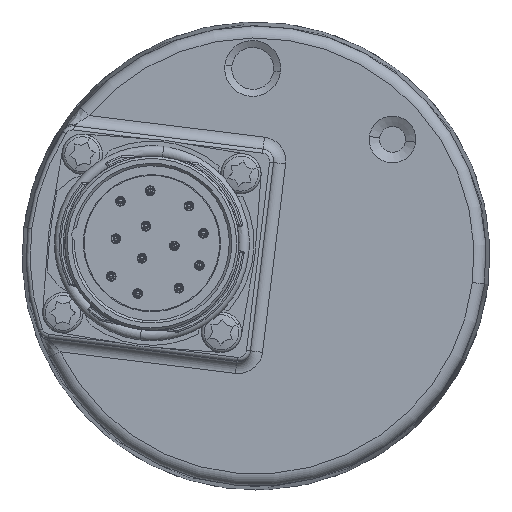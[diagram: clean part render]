
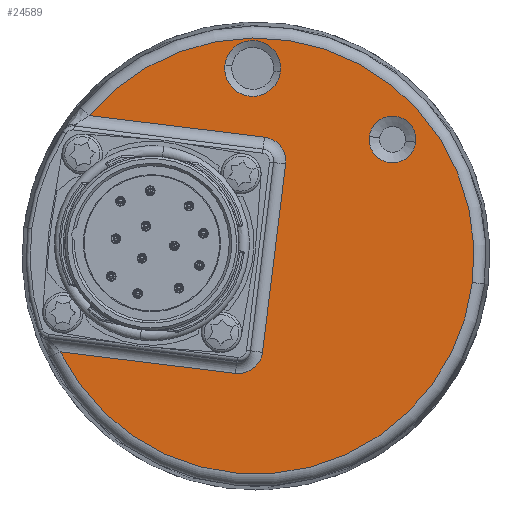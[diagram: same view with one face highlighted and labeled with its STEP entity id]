
A CAD part, left-side view. The second image highlights one B-rep face of the part: STEP entity #24589.
In plain terms, the highlighted planar face has unit normal (-1, 0, 0).
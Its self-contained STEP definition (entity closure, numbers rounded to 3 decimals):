
#851 = DIRECTION ( 'NONE',  ( 0., -0.993, -0.122 ) ) ;
#923 = DIRECTION ( 'NONE',  ( 0., -0.993, -0.122 ) ) ;
#1179 = EDGE_CURVE ( 'NONE', #2451, #25981, #10735, .T. ) ;
#2451 = VERTEX_POINT ( 'NONE', #3148 ) ;
#3148 = CARTESIAN_POINT ( 'NONE',  ( -30.5, -14.042, 14.804 ) ) ;
#3290 = CIRCLE ( 'NONE', #15464, 27.022 ) ;
#5150 = VERTEX_POINT ( 'NONE', #27697 ) ;
#6244 = CARTESIAN_POINT ( 'NONE',  ( -30.5, 26.845, -11.565 ) ) ;
#6354 = DIRECTION ( 'NONE',  ( 1., 0., 0. ) ) ;
#7213 = ORIENTED_EDGE ( 'NONE', *, *, #29733, .T. ) ;
#8135 = EDGE_CURVE ( 'NONE', #53606, #53112, #9676, .T. ) ;
#9676 = LINE ( 'NONE', #52230, #46902 ) ;
#10735 = CIRCLE ( 'NONE', #45188, 2.899 ) ;
#10926 = ORIENTED_EDGE ( 'NONE', *, *, #8135, .T. ) ;
#11238 = CARTESIAN_POINT ( 'NONE',  ( -30.5, -16.919, 14.45 ) ) ;
#11755 = VECTOR ( 'NONE', #36566, 1000. ) ;
#12287 = CARTESIAN_POINT ( 'NONE',  ( -30.5, -16.919, 14.45 ) ) ;
#12891 = CARTESIAN_POINT ( 'NONE',  ( -30.5, 0.406, 23.246 ) ) ;
#15464 = AXIS2_PLACEMENT_3D ( 'NONE', #58868, #29882, #923 ) ;
#16156 = DIRECTION ( 'NONE',  ( 0., -0.993, -0.122 ) ) ;
#16637 = CIRCLE ( 'NONE', #58526, 3. ) ;
#16744 = ORIENTED_EDGE ( 'NONE', *, *, #1179, .T. ) ;
#17237 = DIRECTION ( 'NONE',  ( 0., -0.993, -0.122 ) ) ;
#17399 = EDGE_LOOP ( 'NONE', ( #49225, #26257, #24606, #7213, #27989, #10926, #33706 ) ) ;
#17416 = CARTESIAN_POINT ( 'NONE',  ( -30.5, 0.406, 23.246 ) ) ;
#17429 = EDGE_CURVE ( 'NONE', #21355, #34889, #43104, .T. ) ;
#17830 = DIRECTION ( 'NONE',  ( 0., -0.993, -0.122 ) ) ;
#18695 = FACE_OUTER_BOUND ( 'NONE', #17399, .T. ) ;
#18824 = EDGE_CURVE ( 'NONE', #23876, #46426, #3290, .T. ) ;
#20620 = PLANE ( 'NONE',  #36624 ) ;
#20746 = CARTESIAN_POINT ( 'NONE',  ( -30.5, 3.846, 23.669 ) ) ;
#21355 = VERTEX_POINT ( 'NONE', #20746 ) ;
#21597 = EDGE_CURVE ( 'NONE', #5150, #53112, #36784, .T. ) ;
#21961 = CARTESIAN_POINT ( 'NONE',  ( -30.5, -3.665, 11.388 ) ) ;
#22267 = DIRECTION ( 'NONE',  ( 0., -0.993, -0.122 ) ) ;
#23876 = VERTEX_POINT ( 'NONE', #38512 ) ;
#24338 = AXIS2_PLACEMENT_3D ( 'NONE', #28109, #61931, #33000 ) ;
#24589 = ADVANCED_FACE ( 'NONE', ( #55785, #57276, #18695 ), #20620, .F. ) ;
#24606 = ORIENTED_EDGE ( 'NONE', *, *, #47762, .T. ) ;
#24709 = LINE ( 'NONE', #6244, #11755 ) ;
#25881 = CARTESIAN_POINT ( 'NONE',  ( -30.5, 2.176, -11.571 ) ) ;
#25981 = VERTEX_POINT ( 'NONE', #44165 ) ;
#26257 = ORIENTED_EDGE ( 'NONE', *, *, #18824, .T. ) ;
#27697 = CARTESIAN_POINT ( 'NONE',  ( -30.5, 2.542, -14.549 ) ) ;
#27989 = ORIENTED_EDGE ( 'NONE', *, *, #60625, .F. ) ;
#28109 = CARTESIAN_POINT ( 'NONE',  ( -30.5, 0., 0. ) ) ;
#28207 = DIRECTION ( 'NONE',  ( 0., -0.993, -0.122 ) ) ;
#29733 = EDGE_CURVE ( 'NONE', #30788, #49690, #48617, .T. ) ;
#29817 = DIRECTION ( 'NONE',  ( -1., 0., 0. ) ) ;
#29882 = DIRECTION ( 'NONE',  ( -1., 0., 0. ) ) ;
#30752 = DIRECTION ( 'NONE',  ( 0., -0.993, -0.122 ) ) ;
#30763 = CIRCLE ( 'NONE', #59210, 2.899 ) ;
#30788 = VERTEX_POINT ( 'NONE', #32954 ) ;
#31411 = EDGE_CURVE ( 'NONE', #34889, #21355, #39138, .T. ) ;
#32064 = CARTESIAN_POINT ( 'NONE',  ( -30.5, -3.034, 22.824 ) ) ;
#32954 = CARTESIAN_POINT ( 'NONE',  ( -30.5, 20.675, 17.399 ) ) ;
#33000 = DIRECTION ( 'NONE',  ( 0., -0.993, -0.122 ) ) ;
#33706 = ORIENTED_EDGE ( 'NONE', *, *, #21597, .F. ) ;
#34889 = VERTEX_POINT ( 'NONE', #32064 ) ;
#35423 = CARTESIAN_POINT ( 'NONE',  ( -30.5, 0., 0. ) ) ;
#35668 = AXIS2_PLACEMENT_3D ( 'NONE', #12891, #46812, #17830 ) ;
#35710 = VECTOR ( 'NONE', #28207, 1000. ) ;
#35871 = EDGE_CURVE ( 'NONE', #5150, #23876, #24709, .T. ) ;
#36566 = DIRECTION ( 'NONE',  ( 0., 0.993, 0.122 ) ) ;
#36624 = AXIS2_PLACEMENT_3D ( 'NONE', #35423, #6354, #40300 ) ;
#36784 = CIRCLE ( 'NONE', #48473, 3. ) ;
#38512 = CARTESIAN_POINT ( 'NONE',  ( -30.5, 24.27, -11.881 ) ) ;
#39138 = CIRCLE ( 'NONE', #35668, 3.466 ) ;
#39712 = EDGE_LOOP ( 'NONE', ( #60113, #53742 ) ) ;
#40300 = DIRECTION ( 'NONE',  ( 0., -0.993, -0.122 ) ) ;
#42236 = CARTESIAN_POINT ( 'NONE',  ( -30.5, -1.053, 14.731 ) ) ;
#43104 = CIRCLE ( 'NONE', #44134, 3.466 ) ;
#44134 = AXIS2_PLACEMENT_3D ( 'NONE', #17416, #51268, #22267 ) ;
#44165 = CARTESIAN_POINT ( 'NONE',  ( -30.5, -19.796, 14.097 ) ) ;
#44425 = EDGE_CURVE ( 'NONE', #25981, #2451, #30763, .T. ) ;
#45188 = AXIS2_PLACEMENT_3D ( 'NONE', #11238, #45190, #16156 ) ;
#45190 = DIRECTION ( 'NONE',  ( 1., 0., 0. ) ) ;
#45216 = EDGE_LOOP ( 'NONE', ( #16744, #57884 ) ) ;
#46236 = DIRECTION ( 'NONE',  ( 1., 0., 0. ) ) ;
#46426 = VERTEX_POINT ( 'NONE', #54900 ) ;
#46812 = DIRECTION ( 'NONE',  ( 1., 0., 0. ) ) ;
#46902 = VECTOR ( 'NONE', #61872, 1000. ) ;
#47757 = CIRCLE ( 'NONE', #24338, 27.022 ) ;
#47762 = EDGE_CURVE ( 'NONE', #46426, #30788, #47757, .T. ) ;
#48473 = AXIS2_PLACEMENT_3D ( 'NONE', #25881, #59728, #30752 ) ;
#48617 = LINE ( 'NONE', #61434, #35710 ) ;
#49225 = ORIENTED_EDGE ( 'NONE', *, *, #35871, .T. ) ;
#49690 = VERTEX_POINT ( 'NONE', #42236 ) ;
#51268 = DIRECTION ( 'NONE',  ( 1., 0., 0. ) ) ;
#52230 = CARTESIAN_POINT ( 'NONE',  ( -30.5, -0.618, -13.425 ) ) ;
#53112 = VERTEX_POINT ( 'NONE', #60311 ) ;
#53606 = VERTEX_POINT ( 'NONE', #21961 ) ;
#53742 = ORIENTED_EDGE ( 'NONE', *, *, #31411, .T. ) ;
#54900 = CARTESIAN_POINT ( 'NONE',  ( -30.5, -26.821, -3.293 ) ) ;
#55785 = FACE_BOUND ( 'NONE', #45216, .T. ) ;
#57276 = FACE_BOUND ( 'NONE', #39712, .T. ) ;
#57884 = ORIENTED_EDGE ( 'NONE', *, *, #44425, .T. ) ;
#58526 = AXIS2_PLACEMENT_3D ( 'NONE', #58803, #29817, #851 ) ;
#58803 = CARTESIAN_POINT ( 'NONE',  ( -30.5, -0.688, 11.754 ) ) ;
#58868 = CARTESIAN_POINT ( 'NONE',  ( -30.5, 0., 0. ) ) ;
#59210 = AXIS2_PLACEMENT_3D ( 'NONE', #12287, #46236, #17237 ) ;
#59728 = DIRECTION ( 'NONE',  ( -1., 0., 0. ) ) ;
#60113 = ORIENTED_EDGE ( 'NONE', *, *, #17429, .T. ) ;
#60311 = CARTESIAN_POINT ( 'NONE',  ( -30.5, -0.801, -11.937 ) ) ;
#60625 = EDGE_CURVE ( 'NONE', #53606, #49690, #16637, .T. ) ;
#61434 = CARTESIAN_POINT ( 'NONE',  ( -30.5, -2.542, 14.549 ) ) ;
#61872 = DIRECTION ( 'NONE',  ( 0., 0.122, -0.993 ) ) ;
#61931 = DIRECTION ( 'NONE',  ( -1., 0., 0. ) ) ;
